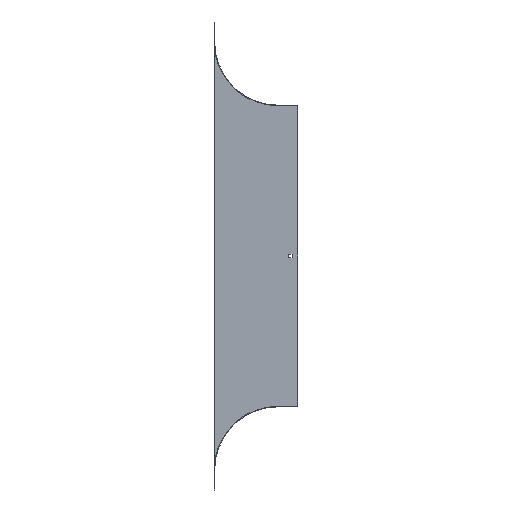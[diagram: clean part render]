
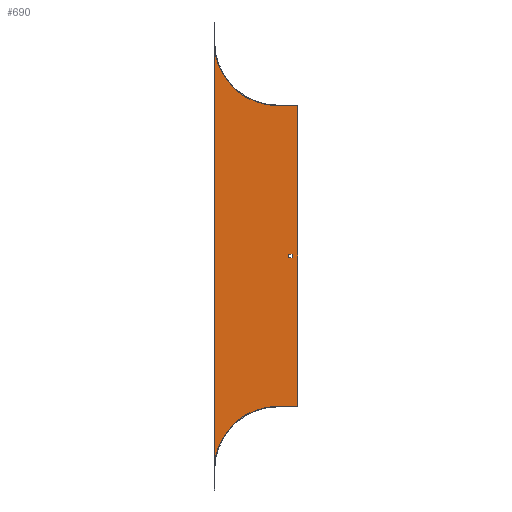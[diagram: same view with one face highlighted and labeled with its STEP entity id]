
A CAD part, front view. The second image highlights one B-rep face of the part: STEP entity #690.
In plain terms, the highlighted planar face has unit normal (0, -1, 0).
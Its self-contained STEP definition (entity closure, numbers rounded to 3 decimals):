
#11 = CARTESIAN_POINT ( 'NONE',  ( 0., -1., -854. ) ) ;
#13 = LINE ( 'NONE', #507, #513 ) ;
#21 = EDGE_CURVE ( 'NONE', #655, #345, #13, .T. ) ;
#29 = AXIS2_PLACEMENT_3D ( 'NONE', #340, #558, #54 ) ;
#49 = LINE ( 'NONE', #225, #583 ) ;
#53 = VECTOR ( 'NONE', #433, 1000. ) ;
#54 = DIRECTION ( 'NONE',  ( 0., 0., -1. ) ) ;
#60 = CARTESIAN_POINT ( 'NONE',  ( 21.5, -1., -430. ) ) ;
#68 = DIRECTION ( 'NONE',  ( -1., 0., 0. ) ) ;
#79 = DIRECTION ( 'NONE',  ( 0., 0., -1. ) ) ;
#96 = CARTESIAN_POINT ( 'NONE',  ( 21.5, -1., -424. ) ) ;
#111 = CARTESIAN_POINT ( 'NONE',  ( 0., -1., -424. ) ) ;
#112 = ORIENTED_EDGE ( 'NONE', *, *, #666, .F. ) ;
#114 = PLANE ( 'NONE',  #29 ) ;
#127 = EDGE_CURVE ( 'NONE', #170, #669, #520, .T. ) ;
#129 = ORIENTED_EDGE ( 'NONE', *, *, #346, .F. ) ;
#134 = EDGE_LOOP ( 'NONE', ( #223, #392, #112, #397 ) ) ;
#156 = EDGE_LOOP ( 'NONE', ( #352, #713, #716, #338, #129, #710 ) ) ;
#170 = VERTEX_POINT ( 'NONE', #96 ) ;
#181 = VERTEX_POINT ( 'NONE', #637 ) ;
#192 = DIRECTION ( 'NONE',  ( 1., 0., 0. ) ) ;
#196 = LINE ( 'NONE', #477, #670 ) ;
#209 = VECTOR ( 'NONE', #337, 1000. ) ;
#211 = CARTESIAN_POINT ( 'NONE',  ( -127., -1., -894. ) ) ;
#216 = VERTEX_POINT ( 'NONE', #528 ) ;
#218 = CARTESIAN_POINT ( 'NONE',  ( 28.5, -1., 0. ) ) ;
#222 = CARTESIAN_POINT ( 'NONE',  ( 0., -1., -727. ) ) ;
#223 = ORIENTED_EDGE ( 'NONE', *, *, #127, .F. ) ;
#225 = CARTESIAN_POINT ( 'NONE',  ( 0., -1., -127. ) ) ;
#231 = EDGE_CURVE ( 'NONE', #669, #181, #196, .T. ) ;
#256 = DIRECTION ( 'NONE',  ( 0., -1., 0. ) ) ;
#279 = LINE ( 'NONE', #218, #309 ) ;
#295 = VERTEX_POINT ( 'NONE', #683 ) ;
#309 = VECTOR ( 'NONE', #556, 1000. ) ;
#310 = VERTEX_POINT ( 'NONE', #571 ) ;
#332 = AXIS2_PLACEMENT_3D ( 'NONE', #11, #416, #79 ) ;
#337 = DIRECTION ( 'NONE',  ( -1., 0., 0. ) ) ;
#338 = ORIENTED_EDGE ( 'NONE', *, *, #671, .F. ) ;
#340 = CARTESIAN_POINT ( 'NONE',  ( 0., -1., 0. ) ) ;
#345 = VERTEX_POINT ( 'NONE', #686 ) ;
#346 = EDGE_CURVE ( 'NONE', #310, #216, #489, .T. ) ;
#349 = LINE ( 'NONE', #111, #209 ) ;
#352 = ORIENTED_EDGE ( 'NONE', *, *, #369, .F. ) ;
#365 = CARTESIAN_POINT ( 'NONE',  ( 0., -1., 0. ) ) ;
#369 = EDGE_CURVE ( 'NONE', #679, #295, #456, .T. ) ;
#391 = FACE_BOUND ( 'NONE', #134, .T. ) ;
#392 = ORIENTED_EDGE ( 'NONE', *, *, #645, .F. ) ;
#397 = ORIENTED_EDGE ( 'NONE', *, *, #231, .F. ) ;
#416 = DIRECTION ( 'NONE',  ( 0., -1., 0. ) ) ;
#433 = DIRECTION ( 'NONE',  ( 0., 0., 1. ) ) ;
#456 = CIRCLE ( 'NONE', #332, 127. ) ;
#470 = VECTOR ( 'NONE', #68, 1000. ) ;
#477 = CARTESIAN_POINT ( 'NONE',  ( 0., -1., -430. ) ) ;
#478 = DIRECTION ( 'NONE',  ( 0., 0., -1. ) ) ;
#489 = CIRCLE ( 'NONE', #514, 127. ) ;
#507 = CARTESIAN_POINT ( 'NONE',  ( 40., -1., -126. ) ) ;
#510 = FACE_OUTER_BOUND ( 'NONE', #156, .T. ) ;
#511 = VERTEX_POINT ( 'NONE', #709 ) ;
#513 = VECTOR ( 'NONE', #576, 1000. ) ;
#514 = AXIS2_PLACEMENT_3D ( 'NONE', #365, #256, #575 ) ;
#520 = LINE ( 'NONE', #585, #598 ) ;
#528 = CARTESIAN_POINT ( 'NONE',  ( 0., -1., -127. ) ) ;
#545 = EDGE_CURVE ( 'NONE', #295, #310, #706, .T. ) ;
#556 = DIRECTION ( 'NONE',  ( 0., 0., 1. ) ) ;
#558 = DIRECTION ( 'NONE',  ( 0., -1., 0. ) ) ;
#561 = CARTESIAN_POINT ( 'NONE',  ( 40., -1., -127. ) ) ;
#571 = CARTESIAN_POINT ( 'NONE',  ( -127., -1., 0. ) ) ;
#575 = DIRECTION ( 'NONE',  ( 0., 0., -1. ) ) ;
#576 = DIRECTION ( 'NONE',  ( 0., 0., -1. ) ) ;
#583 = VECTOR ( 'NONE', #724, 1000. ) ;
#585 = CARTESIAN_POINT ( 'NONE',  ( 21.5, -1., 0. ) ) ;
#598 = VECTOR ( 'NONE', #478, 1000. ) ;
#621 = CARTESIAN_POINT ( 'NONE',  ( 0., -1., -727. ) ) ;
#637 = CARTESIAN_POINT ( 'NONE',  ( 28.5, -1., -430. ) ) ;
#645 = EDGE_CURVE ( 'NONE', #511, #170, #349, .T. ) ;
#655 = VERTEX_POINT ( 'NONE', #561 ) ;
#666 = EDGE_CURVE ( 'NONE', #181, #511, #279, .T. ) ;
#669 = VERTEX_POINT ( 'NONE', #60 ) ;
#670 = VECTOR ( 'NONE', #192, 1000. ) ;
#671 = EDGE_CURVE ( 'NONE', #216, #655, #49, .T. ) ;
#673 = LINE ( 'NONE', #621, #470 ) ;
#679 = VERTEX_POINT ( 'NONE', #222 ) ;
#683 = CARTESIAN_POINT ( 'NONE',  ( -127., -1., -854. ) ) ;
#686 = CARTESIAN_POINT ( 'NONE',  ( 40., -1., -727. ) ) ;
#690 = ADVANCED_FACE ( 'NONE', ( #391, #510 ), #114, .T. ) ;
#706 = LINE ( 'NONE', #211, #53 ) ;
#709 = CARTESIAN_POINT ( 'NONE',  ( 28.5, -1., -424. ) ) ;
#710 = ORIENTED_EDGE ( 'NONE', *, *, #545, .F. ) ;
#713 = ORIENTED_EDGE ( 'NONE', *, *, #717, .F. ) ;
#716 = ORIENTED_EDGE ( 'NONE', *, *, #21, .F. ) ;
#717 = EDGE_CURVE ( 'NONE', #345, #679, #673, .T. ) ;
#724 = DIRECTION ( 'NONE',  ( 1., 0., 0. ) ) ;
